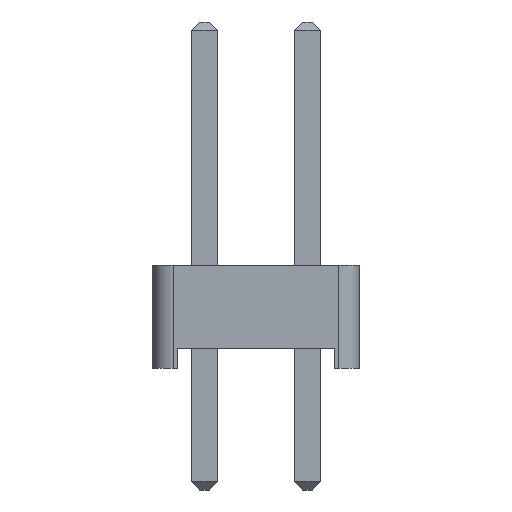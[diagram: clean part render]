
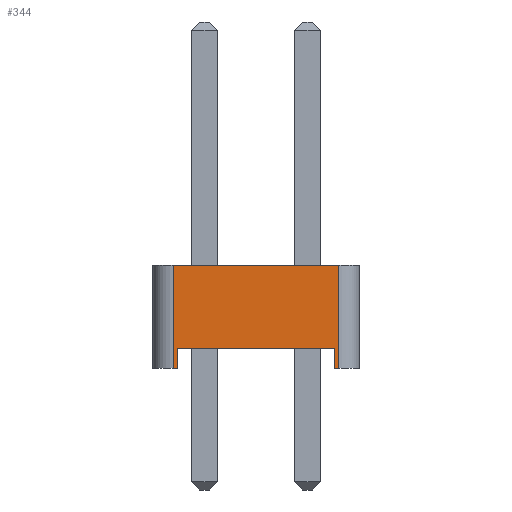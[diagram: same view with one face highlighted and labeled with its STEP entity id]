
A CAD part, left-side view. The second image highlights one B-rep face of the part: STEP entity #344.
In plain terms, the highlighted planar face has unit normal (-1, 0, 0).
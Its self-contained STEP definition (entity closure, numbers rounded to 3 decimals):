
#84 = VERTEX_POINT('',#85);
#85 = CARTESIAN_POINT('',(-1.27,2.04,0.));
#93 = PLANE('',#94);
#94 = AXIS2_PLACEMENT_3D('',#95,#96,#97);
#95 = CARTESIAN_POINT('',(0.,0.,0.));
#96 = DIRECTION('',(-0.,-0.,-1.));
#97 = DIRECTION('',(-1.,0.,0.));
#109 = CYLINDRICAL_SURFACE('',#110,0.5);
#110 = AXIS2_PLACEMENT_3D('',#111,#112,#113);
#111 = CARTESIAN_POINT('',(-0.77,2.04,0.));
#112 = DIRECTION('',(0.,0.,1.));
#113 = DIRECTION('',(0.,1.,0.));
#211 = VERTEX_POINT('',#212);
#212 = CARTESIAN_POINT('',(-1.27,1.94,0.));
#226 = PLANE('',#227);
#227 = AXIS2_PLACEMENT_3D('',#228,#229,#230);
#228 = CARTESIAN_POINT('',(1.27,1.94,0.));
#229 = DIRECTION('',(0.,-1.,0.));
#230 = DIRECTION('',(-1.,0.,0.));
#238 = EDGE_CURVE('',#211,#84,#239,.T.);
#239 = SURFACE_CURVE('',#240,(#244,#251),.PCURVE_S1.);
#240 = LINE('',#241,#242);
#241 = CARTESIAN_POINT('',(-1.27,-2.54,0.));
#242 = VECTOR('',#243,1.);
#243 = DIRECTION('',(0.,1.,0.));
#244 = PCURVE('',#93,#245);
#245 = DEFINITIONAL_REPRESENTATION('',(#246),#250);
#246 = LINE('',#247,#248);
#247 = CARTESIAN_POINT('',(1.27,-2.54));
#248 = VECTOR('',#249,1.);
#249 = DIRECTION('',(0.,1.));
#250 = ( GEOMETRIC_REPRESENTATION_CONTEXT(2) 
PARAMETRIC_REPRESENTATION_CONTEXT() REPRESENTATION_CONTEXT('2D SPACE',''
  ) );
#251 = PCURVE('',#252,#257);
#252 = PLANE('',#253);
#253 = AXIS2_PLACEMENT_3D('',#254,#255,#256);
#254 = CARTESIAN_POINT('',(-1.27,-2.54,0.));
#255 = DIRECTION('',(-1.,0.,0.));
#256 = DIRECTION('',(0.,1.,0.));
#257 = DEFINITIONAL_REPRESENTATION('',(#258),#262);
#258 = LINE('',#259,#260);
#259 = CARTESIAN_POINT('',(0.,0.));
#260 = VECTOR('',#261,1.);
#261 = DIRECTION('',(1.,0.));
#262 = ( GEOMETRIC_REPRESENTATION_CONTEXT(2) 
PARAMETRIC_REPRESENTATION_CONTEXT() REPRESENTATION_CONTEXT('2D SPACE',''
  ) );
#268 = EDGE_CURVE('',#84,#269,#271,.T.);
#269 = VERTEX_POINT('',#270);
#270 = CARTESIAN_POINT('',(-1.27,2.04,2.54));
#271 = SURFACE_CURVE('',#272,(#276,#283),.PCURVE_S1.);
#272 = LINE('',#273,#274);
#273 = CARTESIAN_POINT('',(-1.27,2.04,0.));
#274 = VECTOR('',#275,1.);
#275 = DIRECTION('',(0.,0.,1.));
#276 = PCURVE('',#109,#277);
#277 = DEFINITIONAL_REPRESENTATION('',(#278),#282);
#278 = LINE('',#279,#280);
#279 = CARTESIAN_POINT('',(1.571,0.));
#280 = VECTOR('',#281,1.);
#281 = DIRECTION('',(0.,1.));
#282 = ( GEOMETRIC_REPRESENTATION_CONTEXT(2) 
PARAMETRIC_REPRESENTATION_CONTEXT() REPRESENTATION_CONTEXT('2D SPACE',''
  ) );
#283 = PCURVE('',#252,#284);
#284 = DEFINITIONAL_REPRESENTATION('',(#285),#289);
#285 = LINE('',#286,#287);
#286 = CARTESIAN_POINT('',(4.58,0.));
#287 = VECTOR('',#288,1.);
#288 = DIRECTION('',(0.,-1.));
#289 = ( GEOMETRIC_REPRESENTATION_CONTEXT(2) 
PARAMETRIC_REPRESENTATION_CONTEXT() REPRESENTATION_CONTEXT('2D SPACE',''
  ) );
#308 = PLANE('',#309);
#309 = AXIS2_PLACEMENT_3D('',#310,#311,#312);
#310 = CARTESIAN_POINT('',(0.,0.,2.54));
#311 = DIRECTION('',(-0.,-0.,-1.));
#312 = DIRECTION('',(-1.,0.,0.));
#344 = ADVANCED_FACE('',(#345),#252,.T.);
#345 = FACE_BOUND('',#346,.T.);
#346 = EDGE_LOOP('',(#347,#377,#405,#426,#427,#428,#451,#479));
#347 = ORIENTED_EDGE('',*,*,#348,.F.);
#348 = EDGE_CURVE('',#349,#351,#353,.T.);
#349 = VERTEX_POINT('',#350);
#350 = CARTESIAN_POINT('',(-1.27,-2.04,0.));
#351 = VERTEX_POINT('',#352);
#352 = CARTESIAN_POINT('',(-1.27,-1.94,0.));
#353 = SURFACE_CURVE('',#354,(#358,#365),.PCURVE_S1.);
#354 = LINE('',#355,#356);
#355 = CARTESIAN_POINT('',(-1.27,-2.54,0.));
#356 = VECTOR('',#357,1.);
#357 = DIRECTION('',(0.,1.,0.));
#358 = PCURVE('',#252,#359);
#359 = DEFINITIONAL_REPRESENTATION('',(#360),#364);
#360 = LINE('',#361,#362);
#361 = CARTESIAN_POINT('',(0.,0.));
#362 = VECTOR('',#363,1.);
#363 = DIRECTION('',(1.,0.));
#364 = ( GEOMETRIC_REPRESENTATION_CONTEXT(2) 
PARAMETRIC_REPRESENTATION_CONTEXT() REPRESENTATION_CONTEXT('2D SPACE',''
  ) );
#365 = PCURVE('',#366,#371);
#366 = PLANE('',#367);
#367 = AXIS2_PLACEMENT_3D('',#368,#369,#370);
#368 = CARTESIAN_POINT('',(0.,0.,0.));
#369 = DIRECTION('',(-0.,-0.,-1.));
#370 = DIRECTION('',(-1.,0.,0.));
#371 = DEFINITIONAL_REPRESENTATION('',(#372),#376);
#372 = LINE('',#373,#374);
#373 = CARTESIAN_POINT('',(1.27,-2.54));
#374 = VECTOR('',#375,1.);
#375 = DIRECTION('',(0.,1.));
#376 = ( GEOMETRIC_REPRESENTATION_CONTEXT(2) 
PARAMETRIC_REPRESENTATION_CONTEXT() REPRESENTATION_CONTEXT('2D SPACE',''
  ) );
#377 = ORIENTED_EDGE('',*,*,#378,.T.);
#378 = EDGE_CURVE('',#349,#379,#381,.T.);
#379 = VERTEX_POINT('',#380);
#380 = CARTESIAN_POINT('',(-1.27,-2.04,2.54));
#381 = SURFACE_CURVE('',#382,(#386,#393),.PCURVE_S1.);
#382 = LINE('',#383,#384);
#383 = CARTESIAN_POINT('',(-1.27,-2.04,0.));
#384 = VECTOR('',#385,1.);
#385 = DIRECTION('',(0.,0.,1.));
#386 = PCURVE('',#252,#387);
#387 = DEFINITIONAL_REPRESENTATION('',(#388),#392);
#388 = LINE('',#389,#390);
#389 = CARTESIAN_POINT('',(0.5,0.));
#390 = VECTOR('',#391,1.);
#391 = DIRECTION('',(0.,-1.));
#392 = ( GEOMETRIC_REPRESENTATION_CONTEXT(2) 
PARAMETRIC_REPRESENTATION_CONTEXT() REPRESENTATION_CONTEXT('2D SPACE',''
  ) );
#393 = PCURVE('',#394,#399);
#394 = CYLINDRICAL_SURFACE('',#395,0.5);
#395 = AXIS2_PLACEMENT_3D('',#396,#397,#398);
#396 = CARTESIAN_POINT('',(-0.77,-2.04,0.));
#397 = DIRECTION('',(0.,0.,1.));
#398 = DIRECTION('',(0.,-1.,0.));
#399 = DEFINITIONAL_REPRESENTATION('',(#400),#404);
#400 = LINE('',#401,#402);
#401 = CARTESIAN_POINT('',(-1.571,0.));
#402 = VECTOR('',#403,1.);
#403 = DIRECTION('',(-0.,1.));
#404 = ( GEOMETRIC_REPRESENTATION_CONTEXT(2) 
PARAMETRIC_REPRESENTATION_CONTEXT() REPRESENTATION_CONTEXT('2D SPACE',''
  ) );
#405 = ORIENTED_EDGE('',*,*,#406,.T.);
#406 = EDGE_CURVE('',#379,#269,#407,.T.);
#407 = SURFACE_CURVE('',#408,(#412,#419),.PCURVE_S1.);
#408 = LINE('',#409,#410);
#409 = CARTESIAN_POINT('',(-1.27,-2.54,2.54));
#410 = VECTOR('',#411,1.);
#411 = DIRECTION('',(0.,1.,0.));
#412 = PCURVE('',#252,#413);
#413 = DEFINITIONAL_REPRESENTATION('',(#414),#418);
#414 = LINE('',#415,#416);
#415 = CARTESIAN_POINT('',(0.,-2.54));
#416 = VECTOR('',#417,1.);
#417 = DIRECTION('',(1.,0.));
#418 = ( GEOMETRIC_REPRESENTATION_CONTEXT(2) 
PARAMETRIC_REPRESENTATION_CONTEXT() REPRESENTATION_CONTEXT('2D SPACE',''
  ) );
#419 = PCURVE('',#308,#420);
#420 = DEFINITIONAL_REPRESENTATION('',(#421),#425);
#421 = LINE('',#422,#423);
#422 = CARTESIAN_POINT('',(1.27,-2.54));
#423 = VECTOR('',#424,1.);
#424 = DIRECTION('',(0.,1.));
#425 = ( GEOMETRIC_REPRESENTATION_CONTEXT(2) 
PARAMETRIC_REPRESENTATION_CONTEXT() REPRESENTATION_CONTEXT('2D SPACE',''
  ) );
#426 = ORIENTED_EDGE('',*,*,#268,.F.);
#427 = ORIENTED_EDGE('',*,*,#238,.F.);
#428 = ORIENTED_EDGE('',*,*,#429,.T.);
#429 = EDGE_CURVE('',#211,#430,#432,.T.);
#430 = VERTEX_POINT('',#431);
#431 = CARTESIAN_POINT('',(-1.27,1.94,0.5));
#432 = SURFACE_CURVE('',#433,(#437,#444),.PCURVE_S1.);
#433 = LINE('',#434,#435);
#434 = CARTESIAN_POINT('',(-1.27,1.94,0.));
#435 = VECTOR('',#436,1.);
#436 = DIRECTION('',(0.,0.,1.));
#437 = PCURVE('',#252,#438);
#438 = DEFINITIONAL_REPRESENTATION('',(#439),#443);
#439 = LINE('',#440,#441);
#440 = CARTESIAN_POINT('',(4.48,0.));
#441 = VECTOR('',#442,1.);
#442 = DIRECTION('',(0.,-1.));
#443 = ( GEOMETRIC_REPRESENTATION_CONTEXT(2) 
PARAMETRIC_REPRESENTATION_CONTEXT() REPRESENTATION_CONTEXT('2D SPACE',''
  ) );
#444 = PCURVE('',#226,#445);
#445 = DEFINITIONAL_REPRESENTATION('',(#446),#450);
#446 = LINE('',#447,#448);
#447 = CARTESIAN_POINT('',(2.54,0.));
#448 = VECTOR('',#449,1.);
#449 = DIRECTION('',(0.,-1.));
#450 = ( GEOMETRIC_REPRESENTATION_CONTEXT(2) 
PARAMETRIC_REPRESENTATION_CONTEXT() REPRESENTATION_CONTEXT('2D SPACE',''
  ) );
#451 = ORIENTED_EDGE('',*,*,#452,.T.);
#452 = EDGE_CURVE('',#430,#453,#455,.T.);
#453 = VERTEX_POINT('',#454);
#454 = CARTESIAN_POINT('',(-1.27,-1.94,0.5));
#455 = SURFACE_CURVE('',#456,(#460,#467),.PCURVE_S1.);
#456 = LINE('',#457,#458);
#457 = CARTESIAN_POINT('',(-1.27,1.94,0.5));
#458 = VECTOR('',#459,1.);
#459 = DIRECTION('',(0.,-1.,0.));
#460 = PCURVE('',#252,#461);
#461 = DEFINITIONAL_REPRESENTATION('',(#462),#466);
#462 = LINE('',#463,#464);
#463 = CARTESIAN_POINT('',(4.48,-0.5));
#464 = VECTOR('',#465,1.);
#465 = DIRECTION('',(-1.,0.));
#466 = ( GEOMETRIC_REPRESENTATION_CONTEXT(2) 
PARAMETRIC_REPRESENTATION_CONTEXT() REPRESENTATION_CONTEXT('2D SPACE',''
  ) );
#467 = PCURVE('',#468,#473);
#468 = PLANE('',#469);
#469 = AXIS2_PLACEMENT_3D('',#470,#471,#472);
#470 = CARTESIAN_POINT('',(0.,0.,0.5));
#471 = DIRECTION('',(0.,0.,1.));
#472 = DIRECTION('',(1.,0.,0.));
#473 = DEFINITIONAL_REPRESENTATION('',(#474),#478);
#474 = LINE('',#475,#476);
#475 = CARTESIAN_POINT('',(-1.27,1.94));
#476 = VECTOR('',#477,1.);
#477 = DIRECTION('',(0.,-1.));
#478 = ( GEOMETRIC_REPRESENTATION_CONTEXT(2) 
PARAMETRIC_REPRESENTATION_CONTEXT() REPRESENTATION_CONTEXT('2D SPACE',''
  ) );
#479 = ORIENTED_EDGE('',*,*,#480,.F.);
#480 = EDGE_CURVE('',#351,#453,#481,.T.);
#481 = SURFACE_CURVE('',#482,(#486,#493),.PCURVE_S1.);
#482 = LINE('',#483,#484);
#483 = CARTESIAN_POINT('',(-1.27,-1.94,0.));
#484 = VECTOR('',#485,1.);
#485 = DIRECTION('',(0.,0.,1.));
#486 = PCURVE('',#252,#487);
#487 = DEFINITIONAL_REPRESENTATION('',(#488),#492);
#488 = LINE('',#489,#490);
#489 = CARTESIAN_POINT('',(0.6,0.));
#490 = VECTOR('',#491,1.);
#491 = DIRECTION('',(0.,-1.));
#492 = ( GEOMETRIC_REPRESENTATION_CONTEXT(2) 
PARAMETRIC_REPRESENTATION_CONTEXT() REPRESENTATION_CONTEXT('2D SPACE',''
  ) );
#493 = PCURVE('',#494,#499);
#494 = PLANE('',#495);
#495 = AXIS2_PLACEMENT_3D('',#496,#497,#498);
#496 = CARTESIAN_POINT('',(-1.27,-1.94,0.));
#497 = DIRECTION('',(0.,1.,0.));
#498 = DIRECTION('',(1.,0.,0.));
#499 = DEFINITIONAL_REPRESENTATION('',(#500),#504);
#500 = LINE('',#501,#502);
#501 = CARTESIAN_POINT('',(0.,0.));
#502 = VECTOR('',#503,1.);
#503 = DIRECTION('',(0.,-1.));
#504 = ( GEOMETRIC_REPRESENTATION_CONTEXT(2) 
PARAMETRIC_REPRESENTATION_CONTEXT() REPRESENTATION_CONTEXT('2D SPACE',''
  ) );
